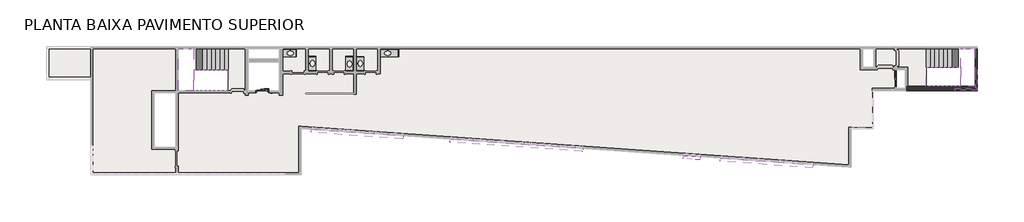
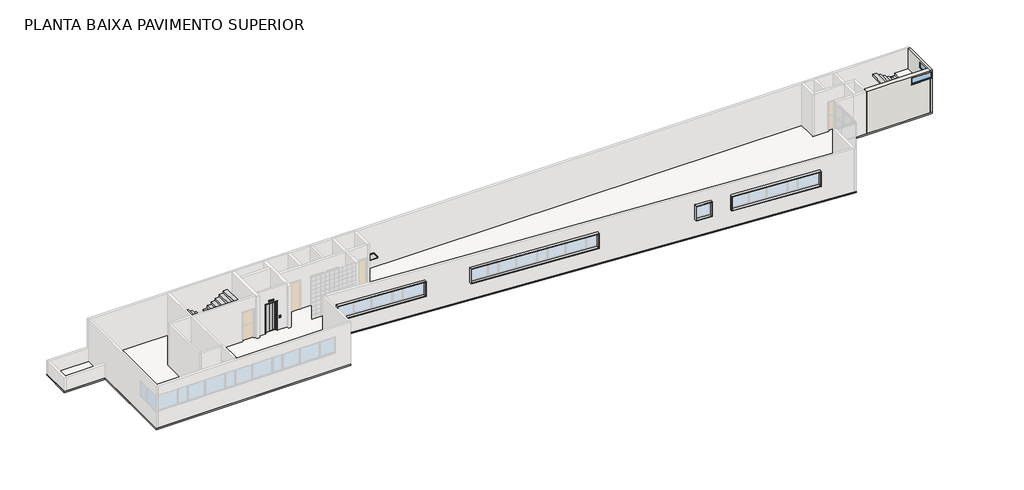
# One storey, part 4 of 4: 20 furniture elements, 5 proxies, 5 slabs, 4 stair flights, 2 walls, 2 windows.
"""IFC4 building model written with IfcOpenShell, lengths in millimetres."""

from ifc_helpers import new_model, si_unit, frame, origin, place, context, project, spatial, polyline, outline, extrude, faceted_brep, transform, mapped, element, save
from components import lift_side_door_aus_4_person_320kg_load_5218565f, moldura_2_moldura_2_8623e442, moldura_3_moldura_3_ffcf38f9, moldura_4_moldura_4_390eebc0, moldura_5_moldura_5_d687aa32, furniture_ba68da85, furniture_a7434cbe, furniture_0e66150f, furniture_9ec81271, bancada_b1badbe6, bancada_42d4f672, bancada_3f8d7115, aluminum_exterior_window_2_wide_3886_1_20_x_0_50m_2c522d7e, aluminum_exterior_window_2_wide_3886_1_45_x_0_50m_3d7411e8

model = new_model("IFC4")

# Units and contexts
model_context = context("Model", 3, world=origin())
ifc_project = project(units=[si_unit("LENGTHUNIT", "METRE", prefix="MILLI")], contexts=[model_context])

# Site, building, storey
site = spatial("IfcSite", under=ifc_project)
building = spatial("IfcBuilding", under=site)
storey = spatial("IfcBuildingStorey", under=building, Name="PLANTA BAIXA PAVIMENTO SUPERIOR", Elevation=4000.0)

# Proxies
placement = place(None, origin())
lift_side_door_aus_4_person_320kg_load_shape = lift_side_door_aus_4_person_320kg_load_5218565f(model_context)
element("IfcBuildingElementProxy", 1, Name="Lift - Side Door (AUS) : 4 Person 320kg load", ObjectType="Lift - Side Door (AUS) : 4 Person 320kg load", at=placement, inside=storey, context=model_context, shape_type="MappedRepresentation", body=[
    mapped(lift_side_door_aus_4_person_320kg_load_shape, transform((-3150.7183499, -5666.1116245, 4000.0), x_axis=(-1.0, 0.0, 0.0), y_axis=(0.0, -1.0, 0.0), z_axis=(0.0, 0.0, 1.0))),
])
moldura_2_moldura_2_shape = moldura_2_moldura_2_8623e442(model_context)
element("IfcBuildingElementProxy", 2, Name="Moldura 2 : Moldura 2", ObjectType="Moldura 2 : Moldura 2", at=placement, inside=storey, context=model_context, shape_type="MappedRepresentation", body=[
    mapped(moldura_2_moldura_2_shape, transform((0.0, 0.0, 0.0), x_axis=(1.0, 0.0, 0.0), y_axis=(0.0, 1.0, 0.0), z_axis=(0.0, 0.0, 1.0))),
])
moldura_3_moldura_3_shape = moldura_3_moldura_3_ffcf38f9(model_context)
element("IfcBuildingElementProxy", 3, Name="Moldura 3 : Moldura 3", ObjectType="Moldura 3 : Moldura 3", at=placement, inside=storey, context=model_context, shape_type="MappedRepresentation", body=[
    mapped(moldura_3_moldura_3_shape, transform((0.0, 0.0, 0.0), x_axis=(1.0, 0.0, 0.0), y_axis=(0.0, 1.0, 0.0), z_axis=(0.0, 0.0, 1.0))),
])
moldura_4_moldura_4_shape = moldura_4_moldura_4_390eebc0(model_context)
element("IfcBuildingElementProxy", 4, Name="Moldura 4 : Moldura 4", ObjectType="Moldura 4 : Moldura 4", at=placement, inside=storey, context=model_context, shape_type="MappedRepresentation", body=[
    mapped(moldura_4_moldura_4_shape, transform((0.0, 0.0, 0.0), x_axis=(1.0, 0.0, 0.0), y_axis=(0.0, 1.0, 0.0), z_axis=(0.0, 0.0, 1.0))),
])
moldura_5_moldura_5_shape = moldura_5_moldura_5_d687aa32(model_context)
element("IfcBuildingElementProxy", 5, Name="Moldura 5 : Moldura 5", ObjectType="Moldura 5 : Moldura 5", at=placement, inside=storey, context=model_context, shape_type="MappedRepresentation", body=[
    mapped(moldura_5_moldura_5_shape, transform((0.0, 0.0, 0.0), x_axis=(1.0, 0.0, 0.0), y_axis=(0.0, 1.0, 0.0), z_axis=(0.0, 0.0, 1.0))),
])

# Furniture
furniture_shape = furniture_ba68da85(model_context)
element("IfcFurniture", 6, ObjectType="Frontispício : Frontispício", at=placement, inside=storey, context=model_context, shape_type="MappedRepresentation", body=[
    mapped(furniture_shape, transform((-2154.6326345, -3084.7892435, 5000.0), x_axis=(0.0, 1.0000000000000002, 0.0), y_axis=(-1.0000000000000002, 0.0, 0.0), z_axis=(0.0, 0.0, 1.0))),
])
element("IfcFurniture", 7, ObjectType="Frontispício : Frontispício", at=placement, inside=storey, context=model_context, shape_type="MappedRepresentation", body=[
    mapped(furniture_shape, transform((-1274.6326345, -3084.7892435, 5000.0), x_axis=(0.0, 1.0, 0.0), y_axis=(-1.0, 0.0, 0.0), z_axis=(0.0, 0.0, 1.0))),
])
element("IfcFurniture", 8, ObjectType="Frontispício : Frontispício", at=placement, inside=storey, context=model_context, shape_type="MappedRepresentation", body=[
    mapped(furniture_shape, transform((-310.9550155, -4331.8996932, 5000.0), x_axis=(-1.0000000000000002, 0.0, 0.0), y_axis=(0.0, -1.0000000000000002, 0.0), z_axis=(0.0, 0.0, 1.0))),
])
element("IfcFurniture", 9, ObjectType="Frontispício : Frontispício", at=placement, inside=storey, context=model_context, shape_type="MappedRepresentation", body=[
    mapped(furniture_shape, transform((-310.9550155, -3401.8996932, 5000.0), x_axis=(-1.0, 0.0, 0.0), y_axis=(0.0, -1.0, 0.0), z_axis=(0.0, 0.0, 1.0))),
])
element("IfcFurniture", 10, ObjectType="Frontispício : Frontispício", at=placement, inside=storey, context=model_context, shape_type="MappedRepresentation", body=[
    mapped(furniture_shape, transform((2251.6897466, -3381.1116245, 5000.0), x_axis=(1.0000000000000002, 0.0, 0.0), y_axis=(0.0, 1.0000000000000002, 0.0), z_axis=(0.0, 0.0, 1.0))),
])
element("IfcFurniture", 11, ObjectType="Frontispício : Frontispício", at=placement, inside=storey, context=model_context, shape_type="MappedRepresentation", body=[
    mapped(furniture_shape, transform((2251.6897466, -4311.1116245, 5000.0), x_axis=(1.0, 0.0, 0.0), y_axis=(0.0, 1.0, 0.0), z_axis=(0.0, 0.0, 1.0))),
])
element("IfcFurniture", 12, ObjectType="Frontispício : Frontispício", at=placement, inside=storey, context=model_context, shape_type="MappedRepresentation", body=[
    mapped(furniture_shape, transform((2789.0449845, -4341.1116245, 5000.0), x_axis=(-1.0000000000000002, 0.0, 0.0), y_axis=(0.0, -1.0000000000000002, 0.0), z_axis=(0.0, 0.0, 1.0))),
])
element("IfcFurniture", 13, ObjectType="Frontispício : Frontispício", at=placement, inside=storey, context=model_context, shape_type="MappedRepresentation", body=[
    mapped(furniture_shape, transform((2789.0449845, -3411.1116245, 5000.0), x_axis=(-1.0, 0.0, 0.0), y_axis=(0.0, -1.0, 0.0), z_axis=(0.0, 0.0, 1.0))),
])
element("IfcFurniture", 14, ObjectType="Frontispício : Frontispício", at=placement, inside=storey, context=model_context, shape_type="MappedRepresentation", body=[
    mapped(furniture_shape, transform((4145.3673655, -3084.7892435, 5000.0), x_axis=(0.0, 1.0000000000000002, 0.0), y_axis=(-1.0000000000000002, 0.0, 0.0), z_axis=(0.0, 0.0, 1.0))),
])
element("IfcFurniture", 15, ObjectType="Frontispício : Frontispício", at=placement, inside=storey, context=model_context, shape_type="MappedRepresentation", body=[
    mapped(furniture_shape, transform((5325.3673655, -3084.7892435, 5000.0), x_axis=(0.0, 1.0000000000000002, 0.0), y_axis=(-1.0000000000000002, 0.0, 0.0), z_axis=(0.0, 0.0, 1.0))),
])
furniture_2_shape = furniture_a7434cbe(model_context)
element("IfcFurniture", 16, ObjectType="Frontispício : Frontispício", at=placement, inside=storey, context=model_context, shape_type="MappedRepresentation", body=[
    mapped(furniture_2_shape, transform((-1428.3102534, -2891.1116245, 5000.0), x_axis=(1.0, 0.0, 0.0), y_axis=(0.0, 1.0, 0.0), z_axis=(0.0, 0.0, 1.0))),
])
furniture_3_shape = furniture_0e66150f(model_context)
element("IfcFurniture", 17, ObjectType="Frontispício : Frontispício", at=placement, inside=storey, context=model_context, shape_type="MappedRepresentation", body=[
    mapped(furniture_3_shape, transform((-504.6326345, -3555.5773121, 5000.0), x_axis=(0.0, 1.0, 0.0), y_axis=(-1.0, 0.0, 0.0), z_axis=(0.0, 0.0, 1.0))),
])
element("IfcFurniture", 18, ObjectType="Frontispício : Frontispício", at=placement, inside=storey, context=model_context, shape_type="MappedRepresentation", body=[
    mapped(furniture_3_shape, transform((2445.3673655, -4157.4340055, 5000.0), x_axis=(0.0, -1.0, 0.0), y_axis=(1.0, 0.0, 0.0), z_axis=(0.0, 0.0, 1.0))),
])
element("IfcFurniture", 19, ObjectType="Frontispício : Frontispício", at=placement, inside=storey, context=model_context, shape_type="MappedRepresentation", body=[
    mapped(furniture_3_shape, transform((2595.3673655, -3564.7892435, 5000.0), x_axis=(0.0, 1.0, 0.0), y_axis=(-1.0, 0.0, 0.0), z_axis=(0.0, 0.0, 1.0))),
])
furniture_4_shape = furniture_9ec81271(model_context)
element("IfcFurniture", 20, ObjectType="Frontispício : Frontispício", at=placement, inside=storey, context=model_context, shape_type="MappedRepresentation", body=[
    mapped(furniture_4_shape, transform((5171.6897466, -2891.1116245, 5000.0), x_axis=(1.0, 0.0, 0.0), y_axis=(0.0, 1.0, 0.0), z_axis=(0.0, 0.0, 1.0))),
])
bancada_shape = bancada_b1badbe6(model_context)
element("IfcFurniture", 21, ObjectType="Bancada Retangular para lavatório Cuba Oval com Torneira Chanfro : Bancada", at=placement, inside=storey, context=model_context, shape_type="MappedRepresentation", body=[
    mapped(bancada_shape, transform((4720.6670391, -2891.1116245, 4000.0), x_axis=(1.0, 0.0, 0.0), y_axis=(0.0, 1.0, 0.0), z_axis=(0.0, 0.0, 1.0))),
])
bancada_2_shape = bancada_42d4f672(model_context)
element("IfcFurniture", 22, ObjectType="Bancada Retangular para lavatório Cuba Oval com Torneira Chanfro : Bancada", at=placement, inside=storey, context=model_context, shape_type="MappedRepresentation", body=[
    mapped(bancada_2_shape, transform((-1579.3329609, -2891.1116245, 4000.0), x_axis=(1.0, 0.0, 0.0), y_axis=(0.0, 1.0, 0.0), z_axis=(0.0, 0.0, 1.0))),
])
bancada_3_shape = bancada_3f8d7115(model_context)
element("IfcFurniture", 23, ObjectType="Bancada Retangular para lavatório Cuba Oval com Torneira Chanfro : Bancada", at=placement, inside=storey, context=model_context, shape_type="MappedRepresentation", body=[
    mapped(bancada_3_shape, transform((-504.6326345, -3756.6000196, 4000.0), x_axis=(0.0, 1.0, 0.0), y_axis=(-1.0, 0.0, 0.0), z_axis=(0.0, 0.0, 1.0))),
])
element("IfcFurniture", 24, ObjectType="Bancada Retangular para lavatório Cuba Oval com Torneira Chanfro : Bancada", at=placement, inside=storey, context=model_context, shape_type="MappedRepresentation", body=[
    mapped(bancada_3_shape, transform((2445.3673655, -3956.4112981, 4000.0), x_axis=(0.0, -1.0, 0.0), y_axis=(1.0, 0.0, 0.0), z_axis=(0.0, 0.0, 1.0))),
])
element("IfcFurniture", 25, ObjectType="Bancada Retangular para lavatório Cuba Oval com Torneira Chanfro : Bancada", at=placement, inside=storey, context=model_context, shape_type="MappedRepresentation", body=[
    mapped(bancada_3_shape, transform((2595.3673655, -3765.8119509, 4000.0), x_axis=(0.0, 1.0, 0.0), y_axis=(-1.0, 0.0, 0.0), z_axis=(0.0, 0.0, 1.0))),
])

# Slabs
element("IfcSlab", 26, ObjectType="Genérico 100 mm", at=placement, inside=storey, context=model_context, shape_type="Brep", body=[
    faceted_brep([(-17404.6326345, -2741.1116245, 3900.0), (-17254.6326345, -2741.1116245, 3900.0), (-2254.6326345, -2741.1116245, 3900.0), (42755.3673655, -2741.1116245, 3900.0), (42755.3673655, -2891.1116245, 3900.0), (42755.3673655, -5591.1116245, 3900.0), (42605.3673655, -5591.1116245, 3900.0), (36035.3673655, -5591.1116245, 3900.0), (36035.3673655, -8041.1116245, 3900.0), (34595.3673655, -8041.1116245, 3900.0), (34595.3673655, -10551.7048448, 3900.0), (-954.6326345, -8041.1116245, 3900.0), (-954.6326345, -11041.1116245, 3900.0), (-2029.6326345, -11041.1116245, 3900.0), (-14554.6326345, -11041.1116245, 3900.0), (-14554.6326345, -10891.1116245, 3900.0), (-14554.6326345, -4891.1116245, 3900.0), (-17404.6326345, -4891.1116245, 3900.0), (42605.3673655, -2891.1116245, 3900.0), (37545.3673655, -2891.1116245, 3900.0), (37545.3673655, -4091.1116245, 3900.0), (38235.3673655, -4091.1116245, 3900.0), (38235.3673655, -5291.1116245, 3900.0), (42605.3673655, -5291.1116245, 3900.0), (36045.3673655, -2891.1116245, 3900.0), (35345.3673655, -2891.1116245, 3900.0), (35345.3673655, -4091.1116245, 3900.0), (36045.3673655, -4091.1116245, 3900.0), (38085.3673655, -4241.1116245, 3900.0), (37545.3673655, -4241.1116245, 3900.0), (37545.3673655, -5441.1116245, 3900.0), (38085.3673655, -5441.1116245, 3900.0), (-9054.6326345, -5741.1116245, 3900.0), (-10454.6326345, -5741.1116245, 3900.0), (-10454.6326345, -9241.1116245, 3900.0), (-9054.6326345, -9241.1116245, 3900.0), (-2354.6326345, -5591.1116245, 3900.0), (-2354.6326345, -3941.1116245, 3900.0), (-2354.6326345, -3741.1116245, 3900.0), (-4354.6326345, -3741.1116245, 3900.0), (-4354.6326345, -5591.1116245, 3900.0), (-4554.6326345, -2891.1116245, 3900.0), (-8904.6326345, -2891.1116245, 3900.0), (-8904.6326345, -5591.1116245, 3900.0), (-5704.6326345, -5591.1116245, 3900.0), (-4554.6326345, -5591.1116245, 3900.0), (-2354.6326345, -2891.1116245, 3900.0), (-4354.6326345, -2891.1116245, 3900.0), (-4354.6326345, -3541.1116245, 3900.0), (-2354.6326345, -3541.1116245, 3900.0), (-17404.6326345, -2741.1116245, 4000.0), (-17404.6326345, -2891.1116245, 4000.0), (-17404.6326345, -4891.1116245, 4000.0), (-17254.6326345, -4891.1116245, 4000.0), (-14554.6326345, -4891.1116245, 4000.0), (-14554.6326345, -11041.1116245, 4000.0), (-14404.6326345, -11041.1116245, 4000.0), (-954.6326345, -11041.1116245, 4000.0), (-954.6326345, -10891.1116245, 4000.0), (-954.6326345, -8041.1116245, 4000.0), (34595.3673655, -10551.7048448, 4000.0), (34595.3673655, -8041.1116245, 4000.0), (36035.3673655, -8041.1116245, 4000.0), (36035.3673655, -5591.1116245, 4000.0), (42605.3673655, -5591.1116245, 4000.0), (42755.3673655, -5591.1116245, 4000.0), (42755.3673655, -2891.1116245, 4000.0), (42755.3673655, -2741.1116245, 4000.0), (-14554.6326345, -2741.1116245, 4000.0), (-9054.6326345, -5741.1116245, 4000.0), (-9054.6326345, -9241.1116245, 4000.0), (-10454.6326345, -9241.1116245, 4000.0), (-10454.6326345, -5741.1116245, 4000.0), (-2354.6326345, -5591.1116245, 4000.0), (-4354.6326345, -5591.1116245, 4000.0), (-4354.6326345, -3741.1116245, 4000.0), (-2354.6326345, -3741.1116245, 4000.0), (38085.3673655, -4241.1116245, 4000.0), (38085.3673655, -5441.1116245, 4000.0), (37545.3673655, -5441.1116245, 4000.0), (37545.3673655, -4241.1116245, 4000.0), (-4554.6326345, -2891.1116245, 4000.0), (-4554.6326345, -5591.1116245, 4000.0), (-4629.2326345, -5591.1116245, 4000.0), (-5480.0326345, -5591.1116245, 4000.0), (-8904.6326345, -5591.1116245, 4000.0), (-8904.6326345, -2891.1116245, 4000.0), (-2354.6326345, -2891.1116245, 4000.0), (-2354.6326345, -3541.1116245, 4000.0), (-4354.6326345, -3541.1116245, 4000.0), (-4354.6326345, -2891.1116245, 4000.0), (36045.3673655, -2891.1116245, 4000.0), (36045.3673655, -4091.1116245, 4000.0), (35345.3673655, -4091.1116245, 4000.0), (35345.3673655, -2891.1116245, 4000.0), (42605.3673655, -2891.1116245, 4000.0), (42605.3673655, -5291.1116245, 4000.0), (38235.3673655, -5291.1116245, 4000.0), (38235.3673655, -4091.1116245, 4000.0), (37545.3673655, -4091.1116245, 4000.0), (37545.3673655, -2891.1116245, 4000.0)], [[[0, 1, 2, 3, 4, 5, 6, 7, 8, 9, 10, 11, 12, 13, 14, 15, 16, 17], [18, 19, 20, 21, 22, 23], [24, 25, 26, 27], [28, 29, 30, 31], [32, 33, 34, 35], [36, 37, 38, 39, 40], [41, 42, 43, 44, 45], [46, 47, 48, 49]], [[50, 51, 52, 53, 54, 55, 56, 57, 58, 59, 60, 61, 62, 63, 64, 65, 66, 67, 68], [69, 70, 71, 72], [73, 74, 75, 76], [77, 78, 79, 80], [81, 82, 83, 84, 85, 86], [87, 88, 89, 90], [91, 92, 93, 94], [95, 96, 97, 98, 99, 100]], [[3, 2, 1, 0, 50, 68, 67]], [[5, 4, 3, 67, 66, 65]], [[7, 6, 5, 65, 64, 63]], [[8, 7, 63, 62]], [[9, 8, 62, 61]], [[10, 9, 61, 60]], [[11, 10, 60, 59]], [[12, 11, 59, 58, 57]], [[14, 13, 12, 57, 56, 55]], [[16, 15, 14, 55, 54]], [[17, 16, 54, 53, 52]], [[0, 17, 52, 51, 50]], [[33, 32, 69, 72]], [[34, 33, 72, 71]], [[35, 34, 71, 70]], [[32, 35, 70, 69]], [[42, 41, 81, 86]], [[43, 42, 86, 85]], [[45, 44, 43, 85, 84, 83, 82]], [[41, 45, 82, 81]], [[38, 37, 36, 73, 76]], [[39, 38, 76, 75]], [[40, 39, 75, 74]], [[36, 40, 74, 73]], [[47, 46, 87, 90]], [[48, 47, 90, 89]], [[49, 48, 89, 88]], [[46, 49, 88, 87]], [[19, 18, 95, 100]], [[20, 19, 100, 99]], [[21, 20, 99, 98]], [[22, 21, 98, 97]], [[23, 22, 97, 96]], [[18, 23, 96, 95]], [[25, 24, 91, 94]], [[26, 25, 94, 93]], [[27, 26, 93, 92]], [[24, 27, 92, 91]], [[29, 28, 77, 80]], [[30, 29, 80, 79]], [[31, 30, 79, 78]], [[28, 31, 78, 77]]]),
])
element("IfcSlab", 27, ObjectType="Genérico 100 mm", at=placement, inside=storey, context=model_context, shape_type="SweptSolid", body=[
    extrude(outline(polyline([(-4554.6326345, -2891.1116245), (-4554.6326345, -5591.1116245), (-5654.6326345, -5591.1116245), (-5654.6326345, -2891.1116245), (-4554.6326345, -2891.1116245)])), frame((0.0, 0.0, 3900.0), z_axis=(0.0, 0.0, 1.0), x_axis=(1.0, 0.0, 0.0)), (0.0, 0.0, 1.0), 100.0),
])
element("IfcSlab", 28, ObjectType="Genérico 100 mm", at=placement, inside=storey, context=model_context, shape_type="Brep", body=[
    faceted_brep([(39445.3673655, -2891.1116245, 3900.0), (39445.3673655, -4091.1116245, 3900.0), (39445.3673655, -5291.1116245, 3900.0), (38235.3673655, -5291.1116245, 3900.0), (38235.3673655, -4091.1116245, 3900.0), (38085.3673655, -4091.1116245, 3900.0), (37585.3673655, -4091.1116245, 3900.0), (37545.3673655, -4091.1116245, 3900.0), (37545.3673655, -2891.1116245, 3900.0), (38085.3673655, -2891.1116245, 3900.0), (38235.3673655, -2891.1116245, 3900.0), (39445.3673655, -2891.1116245, 4000.0), (37545.3673655, -2891.1116245, 4000.0), (37545.3673655, -4091.1116245, 4000.0), (37585.3673655, -4091.1116245, 4000.0), (38235.3673655, -4091.1116245, 4000.0), (38235.3673655, -5291.1116245, 4000.0), (39445.3673655, -5291.1116245, 4000.0), (39445.3673655, -4091.1116245, 4000.0)], [[[0, 1, 2, 3, 4, 5, 6, 7, 8, 9, 10]], [[11, 12, 13, 14, 15, 16, 17, 18]], [[1, 0, 11, 18]], [[7, 6, 14, 13]], [[8, 7, 13, 12]], [[0, 10, 9, 8, 12, 11]], [[2, 1, 18, 17]], [[3, 2, 17, 16]], [[4, 3, 16, 15]], [[6, 5, 4, 15, 14]]]),
])
element("IfcSlab", 29, ObjectType="Concreto 10cm", at=placement, inside=storey, context=model_context, shape_type="Brep", body=[
    faceted_brep([(41685.3673655, -2891.1116245, 5600.0), (41685.3673655, -4091.1116245, 5600.0), (41685.3673655, -5291.1116245, 5600.0), (42605.3673655, -5291.1116245, 5600.0), (42605.3673655, -2891.1116245, 5600.0), (41994.4316976, -2891.1116245, 5600.0), (41685.3673655, -2891.1116245, 5422.2222222), (41685.3673655, -2891.1116245, 5303.7686781), (41685.3673655, -4091.1116245, 5303.7686781), (41685.3673655, -4091.1116245, 5422.2222222), (41685.3673655, -4091.1116245, 5500.0), (41685.3673655, -5291.1116245, 5500.0), (42605.3673655, -5291.1116245, 5500.0), (42605.3673655, -2891.1116245, 5500.0), (41994.4316976, -2891.1116245, 5500.0), (41994.4316976, -4091.1116245, 5500.0)], [[[0, 1, 2, 3, 4, 5]], [[1, 0, 6, 7, 8, 9, 10]], [[2, 1, 10, 11]], [[3, 2, 11, 12]], [[4, 3, 12, 13]], [[7, 6, 0, 5, 4, 13, 14]], [[15, 14, 13, 12, 11, 10]], [[14, 15, 8, 7]], [[15, 10, 9, 8]]]),
])
element("IfcSlab", 30, ObjectType="Concreto 10cm", at=placement, inside=storey, context=model_context, shape_type="Brep", body=[
    faceted_brep([(-7894.6326345, -4241.1116245, 5600.0), (-7894.6326345, -2891.1116245, 5600.0), (-8203.6969665, -2891.1116245, 5600.0), (-8904.6326345, -2891.1116245, 5600.0), (-8904.6326345, -5591.1116245, 5600.0), (-7894.6326345, -5591.1116245, 5600.0), (-7894.6326345, -4241.1116245, 5500.0), (-7894.6326345, -4241.1116245, 5422.2222222), (-7894.6326345, -4241.1116245, 5303.7686781), (-7894.6326345, -2891.1116245, 5303.7686781), (-7894.6326345, -2891.1116245, 5422.2222222), (-8203.6969665, -2891.1116245, 5500.0), (-8904.6326345, -2891.1116245, 5500.0), (-8904.6326345, -5591.1116245, 5500.0), (-7894.6326345, -5591.1116245, 5500.0), (-8203.6969665, -4241.1116245, 5500.0)], [[[0, 1, 2, 3, 4, 5]], [[1, 0, 6, 7, 8, 9, 10]], [[1, 10, 9, 11, 12, 3, 2]], [[4, 3, 12, 13]], [[5, 4, 13, 14]], [[0, 5, 14, 6]], [[11, 15, 6, 14, 13, 12]], [[15, 11, 9, 8]], [[6, 15, 8, 7]]]),
])

# Stair flights
element("IfcStairFlight", 31, ObjectType="Concreto", at=placement, inside=storey, context=model_context, shape_type="Brep", body=[
    faceted_brep([(39725.3673655, -2891.1116245, 4177.7777778), (39445.3673655, -2891.1116245, 4177.7777778), (39445.3673655, -4091.1116245, 4177.7777778), (39725.3673655, -4091.1116245, 4177.7777778), (39725.3673655, -2891.1116245, 4059.3242336), (39631.9316976, -2891.1116245, 4000.0), (39445.3673655, -2891.1116245, 4000.0), (39445.3673655, -4091.1116245, 4000.0), (39631.9316976, -4091.1116245, 4000.0), (39725.3673655, -4091.1116245, 4059.3242336), (40005.3673655, -2891.1116245, 4355.5555556), (39725.3673655, -2891.1116245, 4355.5555556), (39725.3673655, -4091.1116245, 4355.5555556), (40005.3673655, -4091.1116245, 4355.5555556), (40005.3673655, -2891.1116245, 4237.1020114), (40005.3673655, -4091.1116245, 4237.1020114), (40285.3673655, -2891.1116245, 4533.3333333), (40005.3673655, -2891.1116245, 4533.3333333), (40005.3673655, -4091.1116245, 4533.3333333), (40285.3673655, -4091.1116245, 4533.3333333), (40285.3673655, -2891.1116245, 4414.8797892), (40285.3673655, -4091.1116245, 4414.8797892), (40565.3673655, -2891.1116245, 4711.1111111), (40285.3673655, -2891.1116245, 4711.1111111), (40285.3673655, -4091.1116245, 4711.1111111), (40565.3673655, -4091.1116245, 4711.1111111), (40565.3673655, -2891.1116245, 4592.6575669), (40565.3673655, -4091.1116245, 4592.6575669), (40845.3673655, -2891.1116245, 4888.8888889), (40565.3673655, -2891.1116245, 4888.8888889), (40565.3673655, -4091.1116245, 4888.8888889), (40845.3673655, -4091.1116245, 4888.8888889), (40845.3673655, -2891.1116245, 4770.4353447), (40845.3673655, -4091.1116245, 4770.4353447), (41125.3673655, -2891.1116245, 5066.6666667), (40845.3673655, -2891.1116245, 5066.6666667), (40845.3673655, -4091.1116245, 5066.6666667), (41125.3673655, -4091.1116245, 5066.6666667), (41125.3673655, -2891.1116245, 4948.2131225), (41125.3673655, -4091.1116245, 4948.2131225), (41405.3673655, -2891.1116245, 5125.9909003), (41685.3673655, -2891.1116245, 5303.7686781), (41685.3673655, -4091.1116245, 5303.7686781), (41405.3673655, -4091.1116245, 5125.9909003), (41405.3673655, -2891.1116245, 5244.4444444), (41125.3673655, -2891.1116245, 5244.4444444), (41125.3673655, -4091.1116245, 5244.4444444), (41405.3673655, -4091.1116245, 5244.4444444), (41685.3673655, -2891.1116245, 5422.2222222), (41405.3673655, -2891.1116245, 5422.2222222), (41405.3673655, -4091.1116245, 5422.2222222), (41685.3673655, -4091.1116245, 5422.2222222)], [[[0, 1, 2, 3]], [[1, 0, 4, 5, 6]], [[2, 1, 6, 7]], [[3, 2, 7, 8, 9]], [[10, 11, 12, 13]], [[11, 10, 14, 4, 0]], [[0, 3, 12, 11]], [[13, 12, 3, 9, 15]], [[16, 17, 18, 19]], [[17, 16, 20, 14, 10]], [[10, 13, 18, 17]], [[19, 18, 13, 15, 21]], [[22, 23, 24, 25]], [[23, 22, 26, 20, 16]], [[16, 19, 24, 23]], [[25, 24, 19, 21, 27]], [[28, 29, 30, 31]], [[29, 28, 32, 26, 22]], [[22, 25, 30, 29]], [[31, 30, 25, 27, 33]], [[34, 35, 36, 37]], [[35, 34, 38, 32, 28]], [[28, 31, 36, 35]], [[37, 36, 31, 33, 39]], [[7, 6, 5, 8]], [[8, 5, 4, 14, 20, 26, 32, 38, 40, 41, 42, 43, 39, 33, 27, 21, 15, 9]], [[44, 45, 46, 47]], [[45, 44, 40, 38, 34]], [[34, 37, 46, 45]], [[47, 46, 37, 39, 43]], [[48, 49, 50, 51]], [[49, 48, 41, 40, 44]], [[44, 47, 50, 49]], [[51, 50, 47, 43, 42]], [[48, 51, 42, 41]]]),
])
element("IfcStairFlight", 32, ObjectType="Concreto", at=placement, inside=storey, context=model_context, shape_type="Brep", body=[
    faceted_brep([(41685.3673655, -5291.1116245, 5777.7777778), (41685.3673655, -4091.1116245, 5777.7777778), (41656.3030335, -4091.1116245, 5777.7777778), (41405.3673655, -4091.1116245, 5777.7777778), (41405.3673655, -5291.1116245, 5777.7777778), (41656.3030335, -5291.1116245, 5777.7777778), (41405.3673655, -5291.1116245, 5659.3242336), (41656.3030335, -5291.1116245, 5500.0), (41685.3673655, -5291.1116245, 5500.0), (41685.3673655, -5291.1116245, 5600.0), (41685.3673655, -4091.1116245, 5500.0), (41656.3030335, -4091.1116245, 5500.0), (41405.3673655, -4091.1116245, 5659.3242336), (41125.3673655, -5291.1116245, 5955.5555556), (41405.3673655, -5291.1116245, 5955.5555556), (41405.3673655, -4091.1116245, 5955.5555556), (41125.3673655, -4091.1116245, 5955.5555556), (41125.3673655, -5291.1116245, 5837.1020114), (41125.3673655, -4091.1116245, 5837.1020114), (40845.3673655, -5291.1116245, 6133.3333333), (41125.3673655, -5291.1116245, 6133.3333333), (41125.3673655, -4091.1116245, 6133.3333333), (40845.3673655, -4091.1116245, 6133.3333333), (40845.3673655, -5291.1116245, 6014.8797892), (40845.3673655, -4091.1116245, 6014.8797892), (40565.3673655, -5291.1116245, 6311.1111111), (40845.3673655, -5291.1116245, 6311.1111111), (40845.3673655, -4091.1116245, 6311.1111111), (40565.3673655, -4091.1116245, 6311.1111111), (40565.3673655, -5291.1116245, 6192.6575669), (40565.3673655, -4091.1116245, 6192.6575669), (40285.3673655, -5291.1116245, 6488.8888889), (40565.3673655, -5291.1116245, 6488.8888889), (40565.3673655, -4091.1116245, 6488.8888889), (40285.3673655, -4091.1116245, 6488.8888889), (40285.3673655, -5291.1116245, 6370.4353447), (40285.3673655, -4091.1116245, 6370.4353447), (40005.3673655, -5291.1116245, 6666.6666667), (40285.3673655, -5291.1116245, 6666.6666667), (40285.3673655, -4091.1116245, 6666.6666667), (40005.3673655, -4091.1116245, 6666.6666667), (40005.3673655, -5291.1116245, 6548.2131225), (40005.3673655, -4091.1116245, 6548.2131225), (39725.3673655, -5291.1116245, 6844.4444444), (40005.3673655, -5291.1116245, 6844.4444444), (40005.3673655, -4091.1116245, 6844.4444444), (39725.3673655, -4091.1116245, 6844.4444444), (39725.3673655, -5291.1116245, 6725.9909003), (39725.3673655, -4091.1116245, 6725.9909003), (39445.3673655, -5291.1116245, 7022.2222222), (39725.3673655, -5291.1116245, 7022.2222222), (39725.3673655, -4091.1116245, 7022.2222222), (39445.3673655, -4091.1116245, 7022.2222222), (39445.3673655, -5291.1116245, 6903.7686781), (39445.3673655, -4091.1116245, 6903.7686781)], [[[0, 1, 2, 3, 4, 5]], [[4, 6, 7, 8, 9, 0, 5]], [[1, 0, 9, 8, 10]], [[1, 10, 11, 12, 3, 2]], [[13, 14, 15, 16]], [[14, 13, 17, 6, 4]], [[15, 14, 4, 3]], [[16, 15, 3, 12, 18]], [[19, 20, 21, 22]], [[20, 19, 23, 17, 13]], [[21, 20, 13, 16]], [[22, 21, 16, 18, 24]], [[25, 26, 27, 28]], [[26, 25, 29, 23, 19]], [[27, 26, 19, 22]], [[28, 27, 22, 24, 30]], [[31, 32, 33, 34]], [[32, 31, 35, 29, 25]], [[33, 32, 25, 28]], [[34, 33, 28, 30, 36]], [[37, 38, 39, 40]], [[38, 37, 41, 35, 31]], [[39, 38, 31, 34]], [[40, 39, 34, 36, 42]], [[43, 44, 45, 46]], [[44, 43, 47, 41, 37]], [[45, 44, 37, 40]], [[46, 45, 40, 42, 48]], [[49, 50, 51, 52]], [[50, 49, 53, 47, 43]], [[51, 50, 43, 46]], [[52, 51, 46, 48, 54]], [[49, 52, 54, 53]], [[11, 7, 6, 17, 23, 29, 35, 41, 47, 53, 54, 48, 42, 36, 30, 24, 18, 12]], [[7, 11, 10, 8]]]),
])
element("IfcStairFlight", 33, ObjectType="Concreto", at=placement, inside=storey, context=model_context, shape_type="Brep", body=[
    faceted_brep([(-5934.6326345, -4241.1116245, 4177.7777778), (-5654.6326345, -4241.1116245, 4177.7777778), (-5654.6326345, -2891.1116245, 4177.7777778), (-5934.6326345, -2891.1116245, 4177.7777778), (-5934.6326345, -4241.1116245, 4059.3242336), (-5841.1969665, -4241.1116245, 4000.0), (-5654.6326345, -4241.1116245, 4000.0), (-5654.6326345, -2891.1116245, 4000.0), (-5841.1969665, -2891.1116245, 4000.0), (-5934.6326345, -2891.1116245, 4059.3242336), (-6214.6326345, -4241.1116245, 4355.5555556), (-5934.6326345, -4241.1116245, 4355.5555556), (-5934.6326345, -2891.1116245, 4355.5555556), (-6214.6326345, -2891.1116245, 4355.5555556), (-6214.6326345, -4241.1116245, 4237.1020114), (-6214.6326345, -2891.1116245, 4237.1020114), (-6494.6326345, -4241.1116245, 4533.3333333), (-6214.6326345, -4241.1116245, 4533.3333333), (-6214.6326345, -2891.1116245, 4533.3333333), (-6494.6326345, -2891.1116245, 4533.3333333), (-6494.6326345, -4241.1116245, 4414.8797892), (-6494.6326345, -2891.1116245, 4414.8797892), (-6774.6326345, -4241.1116245, 4711.1111111), (-6494.6326345, -4241.1116245, 4711.1111111), (-6494.6326345, -2891.1116245, 4711.1111111), (-6774.6326345, -2891.1116245, 4711.1111111), (-6774.6326345, -4241.1116245, 4592.6575669), (-6774.6326345, -2891.1116245, 4592.6575669), (-7054.6326345, -4241.1116245, 4888.8888889), (-6774.6326345, -4241.1116245, 4888.8888889), (-6774.6326345, -2891.1116245, 4888.8888889), (-7054.6326345, -2891.1116245, 4888.8888889), (-7054.6326345, -4241.1116245, 4770.4353447), (-7054.6326345, -2891.1116245, 4770.4353447), (-7334.6326345, -4241.1116245, 5066.6666667), (-7054.6326345, -4241.1116245, 5066.6666667), (-7054.6326345, -2891.1116245, 5066.6666667), (-7334.6326345, -2891.1116245, 5066.6666667), (-7334.6326345, -4241.1116245, 4948.2131225), (-7334.6326345, -2891.1116245, 4948.2131225), (-7614.6326345, -4241.1116245, 5244.4444444), (-7334.6326345, -4241.1116245, 5244.4444444), (-7334.6326345, -2891.1116245, 5244.4444444), (-7614.6326345, -2891.1116245, 5244.4444444), (-7614.6326345, -4241.1116245, 5125.9909003), (-7614.6326345, -2891.1116245, 5125.9909003), (-7894.6326345, -4241.1116245, 5422.2222222), (-7614.6326345, -4241.1116245, 5422.2222222), (-7614.6326345, -2891.1116245, 5422.2222222), (-7894.6326345, -2891.1116245, 5422.2222222), (-7894.6326345, -4241.1116245, 5303.7686781), (-7894.6326345, -2891.1116245, 5303.7686781)], [[[0, 1, 2, 3]], [[1, 0, 4, 5, 6]], [[2, 1, 6, 7]], [[3, 2, 7, 8, 9]], [[10, 11, 12, 13]], [[11, 10, 14, 4, 0]], [[0, 3, 12, 11]], [[13, 12, 3, 9, 15]], [[16, 17, 18, 19]], [[17, 16, 20, 14, 10]], [[10, 13, 18, 17]], [[19, 18, 13, 15, 21]], [[22, 23, 24, 25]], [[23, 22, 26, 20, 16]], [[16, 19, 24, 23]], [[25, 24, 19, 21, 27]], [[28, 29, 30, 31]], [[29, 28, 32, 26, 22]], [[22, 25, 30, 29]], [[31, 30, 25, 27, 33]], [[34, 35, 36, 37]], [[35, 34, 38, 32, 28]], [[28, 31, 36, 35]], [[37, 36, 31, 33, 39]], [[40, 41, 42, 43]], [[41, 40, 44, 38, 34]], [[34, 37, 42, 41]], [[43, 42, 37, 39, 45]], [[46, 47, 48, 49]], [[47, 46, 50, 44, 40]], [[40, 43, 48, 47]], [[49, 48, 43, 45, 51]], [[46, 49, 51, 50]], [[7, 6, 5, 8]], [[8, 5, 4, 14, 20, 26, 32, 38, 44, 50, 51, 45, 39, 33, 27, 21, 15, 9]]]),
])
element("IfcStairFlight", 34, ObjectType="Concreto", at=placement, inside=storey, context=model_context, shape_type="Brep", body=[
    faceted_brep([(-7894.6326345, -4241.1116245, 5777.7777778), (-7894.6326345, -5591.1116245, 5777.7777778), (-7865.5683024, -5591.1116245, 5777.7777778), (-7614.6326345, -5591.1116245, 5777.7777778), (-7614.6326345, -4241.1116245, 5777.7777778), (-7865.5683024, -4241.1116245, 5777.7777778), (-7614.6326345, -4241.1116245, 5659.3242336), (-7865.5683024, -4241.1116245, 5500.0), (-7894.6326345, -4241.1116245, 5500.0), (-7894.6326345, -5591.1116245, 5500.0), (-7894.6326345, -5591.1116245, 5600.0), (-7865.5683024, -5591.1116245, 5500.0), (-7614.6326345, -5591.1116245, 5659.3242336), (-7334.6326345, -4241.1116245, 5955.5555556), (-7614.6326345, -4241.1116245, 5955.5555556), (-7614.6326345, -5591.1116245, 5955.5555556), (-7334.6326345, -5591.1116245, 5955.5555556), (-7334.6326345, -4241.1116245, 5837.1020114), (-7334.6326345, -5591.1116245, 5837.1020114), (-7054.6326345, -4241.1116245, 6133.3333333), (-7334.6326345, -4241.1116245, 6133.3333333), (-7334.6326345, -5591.1116245, 6133.3333333), (-7054.6326345, -5591.1116245, 6133.3333333), (-7054.6326345, -4241.1116245, 6014.8797892), (-7054.6326345, -5591.1116245, 6014.8797892), (-6774.6326345, -4241.1116245, 6311.1111111), (-7054.6326345, -4241.1116245, 6311.1111111), (-7054.6326345, -5591.1116245, 6311.1111111), (-6774.6326345, -5591.1116245, 6311.1111111), (-6774.6326345, -4241.1116245, 6192.6575669), (-6774.6326345, -5591.1116245, 6192.6575669), (-6494.6326345, -4241.1116245, 6488.8888889), (-6774.6326345, -4241.1116245, 6488.8888889), (-6774.6326345, -5591.1116245, 6488.8888889), (-6494.6326345, -5591.1116245, 6488.8888889), (-6494.6326345, -4241.1116245, 6370.4353447), (-6494.6326345, -5591.1116245, 6370.4353447), (-6214.6326345, -4241.1116245, 6666.6666667), (-6494.6326345, -4241.1116245, 6666.6666667), (-6494.6326345, -5591.1116245, 6666.6666667), (-6214.6326345, -5591.1116245, 6666.6666667), (-6214.6326345, -4241.1116245, 6548.2131225), (-6214.6326345, -5591.1116245, 6548.2131225), (-5934.6326345, -4241.1116245, 6844.4444444), (-6214.6326345, -4241.1116245, 6844.4444444), (-6214.6326345, -5591.1116245, 6844.4444444), (-5934.6326345, -5591.1116245, 6844.4444444), (-5934.6326345, -4241.1116245, 6725.9909003), (-5934.6326345, -5591.1116245, 6725.9909003), (-5654.6326345, -4241.1116245, 7022.2222222), (-5934.6326345, -4241.1116245, 7022.2222222), (-5934.6326345, -5591.1116245, 7022.2222222), (-5654.6326345, -5591.1116245, 7022.2222222), (-5654.6326345, -4241.1116245, 6903.7686781), (-5654.6326345, -5591.1116245, 6903.7686781)], [[[0, 1, 2, 3, 4, 5]], [[4, 6, 7, 8, 0, 5]], [[1, 0, 8, 9, 10]], [[1, 10, 9, 11, 12, 3, 2]], [[13, 14, 15, 16]], [[14, 13, 17, 6, 4]], [[15, 14, 4, 3]], [[16, 15, 3, 12, 18]], [[19, 20, 21, 22]], [[20, 19, 23, 17, 13]], [[21, 20, 13, 16]], [[22, 21, 16, 18, 24]], [[25, 26, 27, 28]], [[26, 25, 29, 23, 19]], [[27, 26, 19, 22]], [[28, 27, 22, 24, 30]], [[31, 32, 33, 34]], [[32, 31, 35, 29, 25]], [[33, 32, 25, 28]], [[34, 33, 28, 30, 36]], [[37, 38, 39, 40]], [[38, 37, 41, 35, 31]], [[39, 38, 31, 34]], [[40, 39, 34, 36, 42]], [[43, 44, 45, 46]], [[44, 43, 47, 41, 37]], [[45, 44, 37, 40]], [[46, 45, 40, 42, 48]], [[49, 50, 51, 52]], [[50, 49, 53, 47, 43]], [[51, 50, 43, 46]], [[52, 51, 46, 48, 54]], [[49, 52, 54, 53]], [[11, 7, 6, 17, 23, 29, 35, 41, 47, 53, 54, 48, 42, 36, 30, 24, 18, 12]], [[7, 11, 9, 8]]]),
])

# Walls
element("IfcWall", 35, ObjectType="Genérica - 15cm", at=placement, inside=storey, context=model_context, shape_type="Brep", body=[
    faceted_brep([(42605.3673655, -2891.1116245, 4000.0), (42605.3673655, -5291.1116245, 4000.0), (42605.3673655, -5591.1116245, 4000.0), (42605.3673655, -5591.1116245, 6500.0), (42605.3673655, -5291.1116245, 6500.0), (42605.3673655, -4251.1116245, 6500.0), (42605.3673655, -4251.1116245, 7000.0), (42605.3673655, -5291.1116245, 7000.0), (42605.3673655, -5591.1116245, 7000.0), (42605.3673655, -5591.1116245, 7100.0), (42605.3673655, -5291.1116245, 7100.0), (42605.3673655, -2891.1116245, 7100.0), (42755.3673655, -5591.1116245, 4000.0), (42755.3673655, -2891.1116245, 4000.0), (42755.3673655, -2891.1116245, 7100.0), (42755.3673655, -5591.1116245, 7100.0), (42755.3673655, -4251.1116245, 7000.0), (42755.3673655, -4251.1116245, 6500.0), (42755.3673655, -5451.1116245, 6500.0), (42755.3673655, -5451.1116245, 7000.0), (42745.3673655, -5591.1116245, 7000.0), (42745.3673655, -5591.1116245, 6500.0), (42745.3673655, -5451.1116245, 6500.0), (42745.3673655, -5451.1116245, 7000.0)], [[[0, 1, 2, 3, 4, 5, 6, 7, 8, 9, 10, 11]], [[12, 13, 14, 15], [16, 17, 18, 19]], [[2, 1, 0, 13, 12]], [[0, 11, 14, 13]], [[2, 12, 15, 9, 8, 20, 21, 3]], [[15, 14, 11, 10, 9]], [[3, 21, 22, 18, 17, 5, 4]], [[21, 20, 23, 22]], [[20, 8, 7, 6, 16, 19, 23]], [[16, 6, 5, 17]], [[18, 22, 23, 19]]]),
])
element("IfcWall", 36, ObjectType="Genérica - 30cm", at=placement, inside=storey, context=model_context, shape_type="Brep", body=[
    faceted_brep([(42605.3673655, -5291.1116245, 4000.0), (38235.3673655, -5291.1116245, 4000.0), (38160.3673655, -5291.1116245, 4000.0), (38160.3673655, -5291.1116245, 7100.0), (38235.3673655, -5291.1116245, 7100.0), (42605.3673655, -5291.1116245, 7100.0), (42605.3673655, -5291.1116245, 7000.0), (41295.3673655, -5291.1116245, 7000.0), (41295.3673655, -5291.1116245, 6500.0), (42605.3673655, -5291.1116245, 6500.0), (38160.3673655, -5591.1116245, 4000.0), (42605.3673655, -5591.1116245, 4000.0), (42605.3673655, -5591.1116245, 6500.0), (41295.3673655, -5591.1116245, 6500.0), (41295.3673655, -5591.1116245, 7000.0), (42605.3673655, -5591.1116245, 7000.0), (42605.3673655, -5591.1116245, 7100.0), (38160.3673655, -5591.1116245, 7100.0), (38160.3673655, -5441.1116245, 4000.0), (38160.3673655, -5441.1116245, 7100.0)], [[[0, 1, 2, 3, 4, 5, 6, 7, 8, 9]], [[10, 11, 12, 13, 14, 15, 16, 17]], [[2, 1, 0, 11, 10, 18]], [[3, 2, 18, 10, 17, 19]], [[5, 16, 15, 6]], [[11, 0, 9, 12]], [[17, 16, 5, 4, 3, 19]], [[7, 14, 13, 8]], [[8, 13, 12, 9]], [[14, 7, 6, 15]]]),
])

# Windows
aluminum_exterior_window_2_wide_3886_1_20_x_0_50m_shape = aluminum_exterior_window_2_wide_3886_1_20_x_0_50m_2c522d7e(model_context)
element("IfcWindow", 37, ObjectType="Aluminum_Exterior_Window_-_2_Wide_3886 : 1,20 x 0,50m", at=placement, inside=storey, context=model_context, shape_type="MappedRepresentation", body=[
    mapped(aluminum_exterior_window_2_wide_3886_1_20_x_0_50m_shape, transform((42706.9248902, -4079.5116245, 5440.0), x_axis=(0.0, 1.0, 0.0), y_axis=(-1.0, 0.0, 0.0), z_axis=(0.0, 0.0, 1.0))),
])
aluminum_exterior_window_2_wide_3886_1_45_x_0_50m_shape = aluminum_exterior_window_2_wide_3886_1_45_x_0_50m_3d7411e8(model_context)
element("IfcWindow", 38, ObjectType="Aluminum_Exterior_Window_-_2_Wide_3886 : 1,45 x 0,50m", at=placement, inside=storey, context=model_context, shape_type="MappedRepresentation", body=[
    mapped(aluminum_exterior_window_2_wide_3886_1_45_x_0_50m_shape, transform((41373.7673655, -5414.5540999, 5440.0), x_axis=(-1.0, 0.0, 0.0), y_axis=(0.0, -1.0, 0.0), z_axis=(0.0, 0.0, 1.0))),
])

save(model, "model.ifc")
